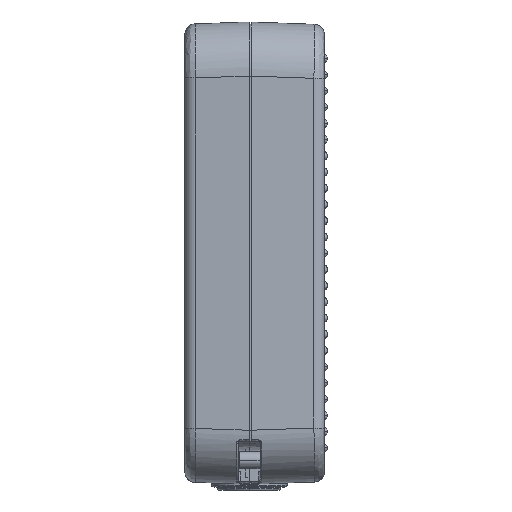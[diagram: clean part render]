
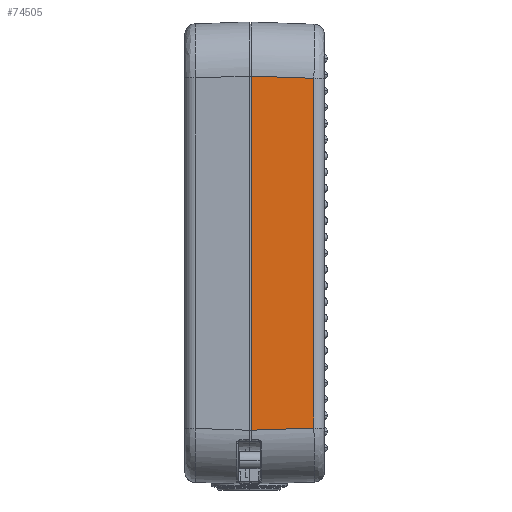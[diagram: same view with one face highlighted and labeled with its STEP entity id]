
A CAD part, left-side view. The second image highlights one B-rep face of the part: STEP entity #74505.
In plain terms, the highlighted planar face has unit normal (-0.999, -0.035, 0) as drawn and (0, -0.035, 0.999) by its records, which use the part's own axes.
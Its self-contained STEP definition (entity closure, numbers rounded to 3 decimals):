
#5071 = CARTESIAN_POINT ( 'NONE',  ( -32.338, -11.97, 72.582 ) ) ;
#11238 = DIRECTION ( 'NONE',  ( -1., 0., 0. ) ) ;
#14180 = CARTESIAN_POINT ( 'NONE',  ( -32.338, -11.97, 72.582 ) ) ;
#16358 = LINE ( 'NONE', #5071, #91321 ) ;
#19735 = CARTESIAN_POINT ( 'NONE',  ( 44.779, 0., 73. ) ) ;
#20426 = DIRECTION ( 'NONE',  ( 0., -0.035, 0.999 ) ) ;
#27043 = ORIENTED_EDGE ( 'NONE', *, *, #76961, .F. ) ;
#35308 = DIRECTION ( 'NONE',  ( 1., 0., 0. ) ) ;
#37832 = VECTOR ( 'NONE', #35308, 1000. ) ;
#38001 = CARTESIAN_POINT ( 'NONE',  ( -32.742, -0.4, 72.986 ) ) ;
#39787 = ORIENTED_EDGE ( 'NONE', *, *, #78826, .T. ) ;
#40872 = AXIS2_PLACEMENT_3D ( 'NONE', #19735, #20426, #11238 ) ;
#45176 = DIRECTION ( 'NONE',  ( 0.035, 0.999, 0.035 ) ) ;
#45858 = EDGE_CURVE ( 'NONE', #59461, #136071, #90938, .T. ) ;
#47860 = ORIENTED_EDGE ( 'NONE', *, *, #45858, .T. ) ;
#52830 = PLANE ( 'NONE',  #40872 ) ;
#55751 = CARTESIAN_POINT ( 'NONE',  ( 32.338, -11.97, 72.582 ) ) ;
#59461 = VERTEX_POINT ( 'NONE', #87944 ) ;
#71132 = DIRECTION ( 'NONE',  ( 1., 0., 0. ) ) ;
#74505 = ADVANCED_FACE ( 'NONE', ( #128208 ), #52830, .T. ) ;
#76961 = EDGE_CURVE ( 'NONE', #119978, #93008, #82422, .T. ) ;
#78826 = EDGE_CURVE ( 'NONE', #136071, #93008, #107953, .T. ) ;
#82422 = LINE ( 'NONE', #38001, #115113 ) ;
#87944 = CARTESIAN_POINT ( 'NONE',  ( -32.338, -11.97, 72.582 ) ) ;
#90938 = LINE ( 'NONE', #14180, #37832 ) ;
#91321 = VECTOR ( 'NONE', #102334, 1000. ) ;
#93008 = VERTEX_POINT ( 'NONE', #97517 ) ;
#96172 = EDGE_LOOP ( 'NONE', ( #137109, #47860, #39787, #27043 ) ) ;
#97517 = CARTESIAN_POINT ( 'NONE',  ( 32.742, -0.4, 72.986 ) ) ;
#102334 = DIRECTION ( 'NONE',  ( -0.035, 0.999, 0.035 ) ) ;
#104156 = VECTOR ( 'NONE', #45176, 1000. ) ;
#107953 = LINE ( 'NONE', #55751, #104156 ) ;
#115113 = VECTOR ( 'NONE', #71132, 1000. ) ;
#119978 = VERTEX_POINT ( 'NONE', #134725 ) ;
#122331 = CARTESIAN_POINT ( 'NONE',  ( 32.338, -11.97, 72.582 ) ) ;
#128208 = FACE_OUTER_BOUND ( 'NONE', #96172, .T. ) ;
#134184 = EDGE_CURVE ( 'NONE', #59461, #119978, #16358, .T. ) ;
#134725 = CARTESIAN_POINT ( 'NONE',  ( -32.742, -0.4, 72.986 ) ) ;
#136071 = VERTEX_POINT ( 'NONE', #122331 ) ;
#137109 = ORIENTED_EDGE ( 'NONE', *, *, #134184, .F. ) ;
